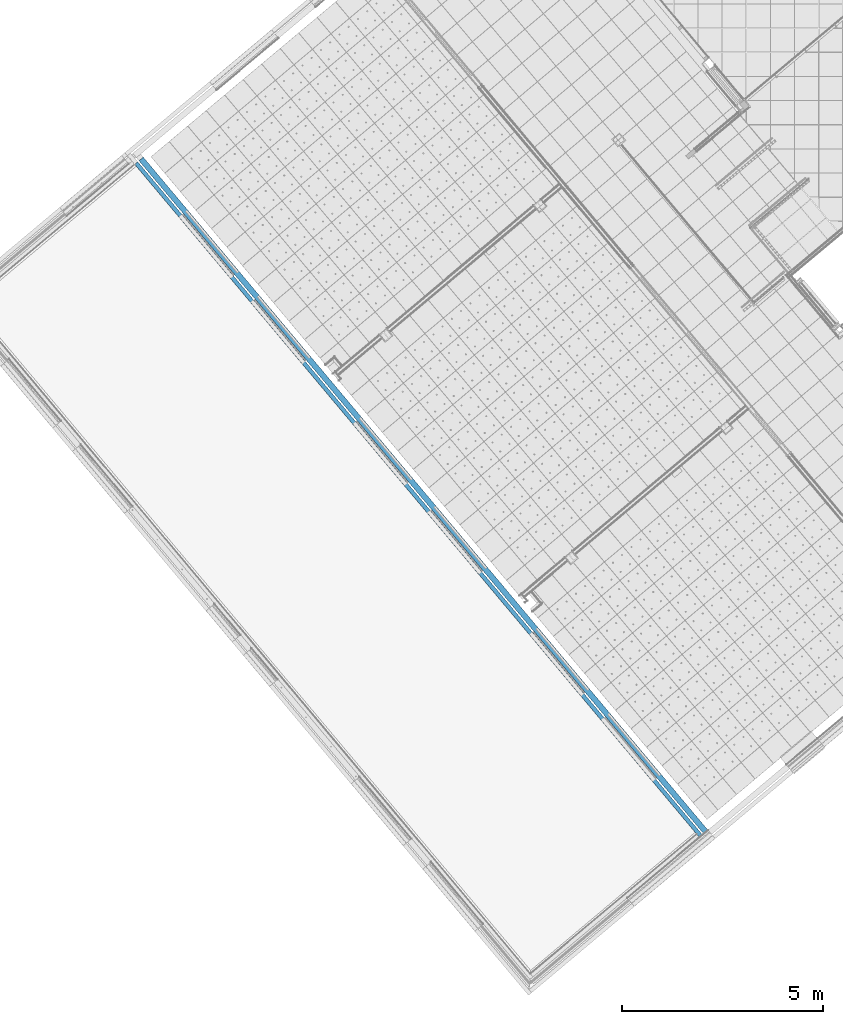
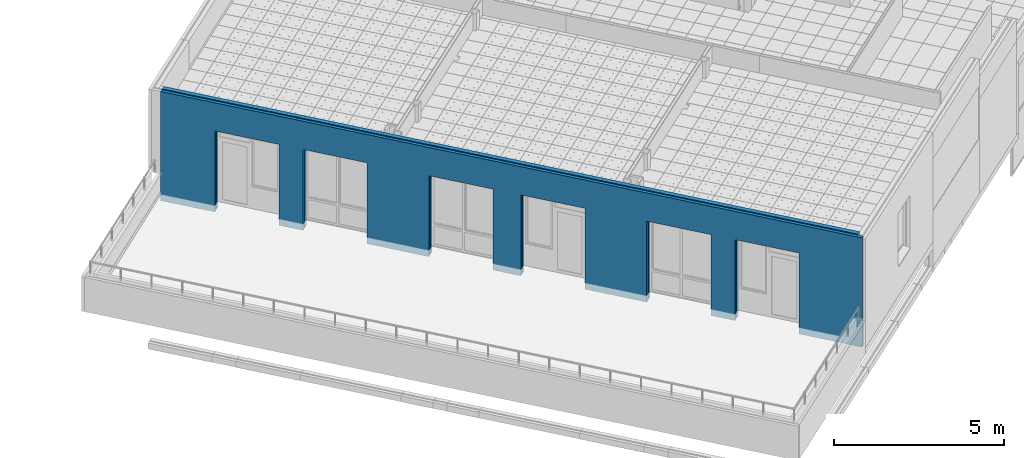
# One storey, part 39 of 321: 2 building element parts, 6 openings, 1 element without a shape of its own.
"""IFC2X3 building model written with IfcOpenShell, lengths in millimetres."""

from ifc_helpers import new_model, entity, si_unit, converted_unit, derived_unit, money_unit, direction, frame, origin_with_axes, place, context, subcontext, project, spatial, faceted_brep, material, type_object, element, aggregate, save


model = new_model("IFC2X3")

# Units and contexts
model_context = context("Model", 3, precision=0.01, world=origin_with_axes(), true_north=direction((0.0, 1.0)))
plan_context = context("Plan", 3, precision=0.01, world=origin_with_axes(), true_north=direction((0.0, 1.0)))
body_context = subcontext(model_context, "Body", "Model", "MODEL_VIEW")
ifc_project = project(units=[si_unit("LENGTHUNIT", "METRE", prefix="MILLI"), si_unit("AREAUNIT", "SQUARE_METRE"), si_unit("VOLUMEUNIT", "CUBIC_METRE"), converted_unit("PLANEANGLEUNIT", "DEGREE", entity("IfcPlaneAngleMeasure", 0.0174532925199), si_unit("PLANEANGLEUNIT", "RADIAN"), dimensions=[0, 0, 0, 0, 0, 0, 0]), money_unit("EUR"), converted_unit("TIMEUNIT", "Year", entity("IfcTimeMeasure", 31556926.0), si_unit("TIMEUNIT", "SECOND"), dimensions=[0, 0, 1, 0, 0, 0, 0]), si_unit("MASSUNIT", "GRAM", prefix="KILO"), si_unit("THERMODYNAMICTEMPERATUREUNIT", "DEGREE_CELSIUS"), si_unit("LUMINOUSINTENSITYUNIT", "LUMEN"), si_unit("ENERGYUNIT", "JOULE", prefix="MEGA"), derived_unit("THERMALCONDUCTANCEUNIT", [(si_unit("POWERUNIT", "WATT"), 1), (si_unit("LENGTHUNIT", "METRE"), -1), (si_unit("THERMODYNAMICTEMPERATUREUNIT", "KELVIN"), -1)]), derived_unit("SPECIFICHEATCAPACITYUNIT", [(si_unit("ENERGYUNIT", "JOULE"), 1), (si_unit("MASSUNIT", "GRAM", prefix="KILO"), -1), (si_unit("THERMODYNAMICTEMPERATUREUNIT", "KELVIN"), -1)]), derived_unit("MASSDENSITYUNIT", [(si_unit("MASSUNIT", "GRAM", prefix="KILO"), 1), (si_unit("VOLUMEUNIT", "CUBIC_METRE"), -1)])], contexts=[model_context, plan_context])

# Site, building, storey
site_placement = place(None, origin_with_axes())
site = spatial("IfcSite", under=ifc_project, at=site_placement, Name="Fortuinstraat Woensdrecht", CompositionType="ELEMENT")
building_placement = place(site_placement, origin_with_axes())
building = spatial("IfcBuilding", under=site, at=building_placement, Name="IKC Fortuna", CompositionType="ELEMENT")
storey_placement = place(building_placement, frame((0.0, 0.0, 4000.0), z_axis=(0.0, 0.0, 1.0), x_axis=(1.0, 0.0, 0.0)))
storey = spatial("IfcBuildingStorey", under=building, at=storey_placement, Name="01 eerste verdieping", CompositionType="ELEMENT", Elevation=4000.0)

# Wall, openings, building element parts
wall_type = type_object("IfcWallType", Name="21 MW hoofd 280", PredefinedType="NOTDEFINED")
wall_placement = place(storey_placement, frame((18518.9533731, -13085.7240957, 1360.0), z_axis=(0.0, 0.0, 1.0), x_axis=(-0.642787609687, 0.766044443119, 0.0)))
wall = element("IfcWall", 1, at=wall_placement, inside=storey, type_object=wall_type, Name="21_Wand_Vezel Cement Plaat")
opening_1_placement = place(wall_placement, frame((16352.999959, 0.0, 273.0), z_axis=(0.0, 0.0, 1.0), x_axis=(1.0, 0.0, 0.0)))
element("IfcOpeningElement", 2, at=opening_1_placement, cuts=wall, Name="31_Raam_A.14", context=body_context, shape_type="Brep", body=[
    faceted_brep([(-1005.0, 560.0, 2639.5), (-1005.0, 560.0, -273.0), (-1005.0, 72.0, -273.0), (-1005.0, 72.0, 2639.5), (1005.0, 560.0, 2639.5), (1005.0, 560.0, -273.0), (1005.0, 72.0, -273.0), (1005.0, 72.0, 2639.5)], [[[0, 1, 2, 3]], [[0, 4, 5, 1]], [[1, 5, 6, 2]], [[3, 2, 6, 7]], [[4, 0, 3, 7]], [[5, 4, 7, 6]]]),
    faceted_brep([(-1005.0, -280.0, -273.0), (-1005.0, -280.0, 2639.5), (-1005.0, 72.0, 2639.5), (-1005.0, 72.0, -273.0), (1005.0, -280.0, -273.0), (1005.0, -280.0, 2639.5), (1005.0, 72.0, 2639.5), (1005.0, 72.0, -273.0)], [[[0, 1, 2, 3]], [[0, 4, 5, 1]], [[1, 5, 6, 2]], [[3, 2, 6, 7]], [[4, 0, 3, 7]], [[5, 4, 7, 6]]]),
])
opening_2_placement = place(wall_placement, frame((12404.0000003, 0.0, 273.0), z_axis=(0.0, 0.0, 1.0), x_axis=(1.0, 0.0, 0.0)))
element("IfcOpeningElement", 3, at=opening_2_placement, cuts=wall, Name="31_Raam_A.14", context=body_context, shape_type="Brep", body=[
    faceted_brep([(-1005.0, 560.0, 2639.5), (-1005.0, 560.0, -273.0), (-1005.0, 72.0, -273.0), (-1005.0, 72.0, 2639.5), (1005.0, 560.0, 2639.5), (1005.0, 560.0, -273.0), (1005.0, 72.0, -273.0), (1005.0, 72.0, 2639.5)], [[[0, 1, 2, 3]], [[0, 4, 5, 1]], [[1, 5, 6, 2]], [[3, 2, 6, 7]], [[4, 0, 3, 7]], [[5, 4, 7, 6]]]),
    faceted_brep([(-1005.0, -280.0, -273.0), (-1005.0, -280.0, 2639.5), (-1005.0, 72.0, 2639.5), (-1005.0, 72.0, -273.0), (1005.0, -280.0, -273.0), (1005.0, -280.0, 2639.5), (1005.0, 72.0, 2639.5), (1005.0, 72.0, -273.0)], [[[0, 1, 2, 3]], [[0, 4, 5, 1]], [[1, 5, 6, 2]], [[3, 2, 6, 7]], [[4, 0, 3, 7]], [[5, 4, 7, 6]]]),
])
opening_3_placement = place(wall_placement, frame((5575.0000415, 0.0, 273.0), z_axis=(0.0, 0.0, 1.0), x_axis=(1.0, 0.0, 0.0)))
element("IfcOpeningElement", 4, at=opening_3_placement, cuts=wall, Name="31_Raam_A.14", context=body_context, shape_type="Brep", body=[
    faceted_brep([(-1005.0, 560.0, 2639.5), (-1005.0, 560.0, -273.0), (-1005.0, 72.0, -273.0), (-1005.0, 72.0, 2639.5), (1005.0, 560.0, 2639.5), (1005.0, 560.0, -273.0), (1005.0, 72.0, -273.0), (1005.0, 72.0, 2639.5)], [[[0, 1, 2, 3]], [[0, 4, 5, 1]], [[1, 5, 6, 2]], [[3, 2, 6, 7]], [[4, 0, 3, 7]], [[5, 4, 7, 6]]]),
    faceted_brep([(-1005.0, -280.0, -273.0), (-1005.0, -280.0, 2639.5), (-1005.0, 72.0, 2639.5), (-1005.0, 72.0, -273.0), (1005.0, -280.0, -273.0), (1005.0, -280.0, 2639.5), (1005.0, 72.0, 2639.5), (1005.0, 72.0, -273.0)], [[[0, 1, 2, 3]], [[0, 4, 5, 1]], [[1, 5, 6, 2]], [[3, 2, 6, 7]], [[4, 0, 3, 7]], [[5, 4, 7, 6]]]),
])
opening_4_placement = place(wall_placement, frame((19122.9999796, 0.0, 218.475865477), z_axis=(0.0, 0.0, 1.0), x_axis=(1.0, 0.0, 0.0)))
element("IfcOpeningElement", 5, at=opening_4_placement, cuts=wall, Name="31_Deur_A.13", context=body_context, shape_type="Brep", body=[
    faceted_brep([(1005.0, 72.0, 2694.02413452), (1005.0, 72.0, -218.5), (1005.0, 560.0, -218.5), (1005.0, 560.0, 2694.02413452), (-1005.0, 72.0, 2694.02413452), (-1005.0, 72.0, -218.5), (-1005.0, 560.0, -218.5), (-1005.0, 560.0, 2694.02413452)], [[[0, 1, 2, 3]], [[0, 4, 5, 1]], [[1, 5, 6, 2]], [[3, 2, 6, 7]], [[4, 0, 3, 7]], [[5, 4, 7, 6]]]),
    faceted_brep([(1005.0, 72.0, -218.5), (1005.0, 72.0, 2694.02413452), (1005.0, -280.0, 2694.02413452), (1005.0, -280.0, -218.5), (-1005.0, 72.0, -218.5), (-1005.0, 72.0, 2694.02413452), (-1005.0, -280.0, 2694.02413452), (-1005.0, -280.0, -218.5)], [[[0, 1, 2, 3]], [[0, 4, 5, 1]], [[1, 5, 6, 2]], [[3, 2, 6, 7]], [[4, 0, 3, 7]], [[5, 4, 7, 6]]]),
])
opening_5_placement = place(wall_placement, frame((9524.00000026, 0.0, 218.475865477), z_axis=(0.0, 0.0, 1.0), x_axis=(1.0, 0.0, 0.0)))
element("IfcOpeningElement", 6, at=opening_5_placement, cuts=wall, Name="31_Deur_A.13", context=body_context, shape_type="Brep", body=[
    faceted_brep([(-1005.0, 560.0, 2694.02413452), (-1005.0, 560.0, -218.5), (-1005.0, 72.0, -218.5), (-1005.0, 72.0, 2694.02413452), (1005.0, 560.0, 2694.02413452), (1005.0, 560.0, -218.5), (1005.0, 72.0, -218.5), (1005.0, 72.0, 2694.02413452)], [[[0, 1, 2, 3]], [[0, 4, 5, 1]], [[1, 5, 6, 2]], [[3, 2, 6, 7]], [[4, 0, 3, 7]], [[5, 4, 7, 6]]]),
    faceted_brep([(-1005.0, -280.0, -218.5), (-1005.0, -280.0, 2694.02413452), (-1005.0, 72.0, 2694.02413452), (-1005.0, 72.0, -218.5), (1005.0, -280.0, -218.5), (1005.0, -280.0, 2694.02413452), (1005.0, 72.0, 2694.02413452), (1005.0, 72.0, -218.5)], [[[0, 1, 2, 3]], [[0, 4, 5, 1]], [[1, 5, 6, 2]], [[3, 2, 6, 7]], [[4, 0, 3, 7]], [[5, 4, 7, 6]]]),
])
opening_6_placement = place(wall_placement, frame((2805.00002088, 0.0, 218.475865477), z_axis=(0.0, 0.0, 1.0), x_axis=(1.0, 0.0, 0.0)))
element("IfcOpeningElement", 7, at=opening_6_placement, cuts=wall, Name="31_Deur_A.13", context=body_context, shape_type="Brep", body=[
    faceted_brep([(-1005.0, 560.0, 2694.02413452), (-1005.0, 560.0, -218.5), (-1005.0, 72.0, -218.5), (-1005.0, 72.0, 2694.02413452), (1005.0, 560.0, 2694.02413452), (1005.0, 560.0, -218.5), (1005.0, 72.0, -218.5), (1005.0, 72.0, 2694.02413452)], [[[0, 1, 2, 3]], [[0, 4, 5, 1]], [[1, 5, 6, 2]], [[3, 2, 6, 7]], [[4, 0, 3, 7]], [[5, 4, 7, 6]]]),
    faceted_brep([(-1005.0, -280.0, -218.5), (-1005.0, -280.0, 2694.02413452), (-1005.0, 72.0, 2694.02413452), (-1005.0, 72.0, -218.5), (1005.0, -280.0, -218.5), (1005.0, -280.0, 2694.02413452), (1005.0, 72.0, 2694.02413452), (1005.0, 72.0, -218.5)], [[[0, 1, 2, 3]], [[0, 4, 5, 1]], [[1, 5, 6, 2]], [[3, 2, 6, 7]], [[4, 0, 3, 7]], [[5, 4, 7, 6]]]),
])
ifc_material_1 = material(Name="Steen - Baksteen Hoofd")
building_element_part_1_placement = place(wall_placement, origin_with_axes())
building_element_part_1 = element("IfcBuildingElementPart", 8, at=building_element_part_1_placement, material=ifc_material_1, Name="Steen - Baksteen Hoofd", context=body_context, shape_type="Brep", body=[
    faceted_brep([(1800.00002088, 180.0, 0.0), (1800.00002088, 180.0, 2880.0), (1662.00000029, 180.0, 2880.0), (1662.00000029, 180.000011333, 2902.0), (1800.00002088, 180.000011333, 2902.0), (1800.00002088, 180.0, 2912.5), (3810.00002088, 180.0, 2912.5), (3810.00002088, 180.000011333, 2902.0), (3948.00000029, 180.000011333, 2902.0), (3948.00000029, 180.0, 2880.0), (3810.00002088, 180.0, 2880.0), (3810.00002088, 180.0, 0.0), (4570.0000415, 180.0, 0.0), (4570.0000415, 180.0, 2880.0), (4336.00000029, 180.0, 2880.0), (4336.00000029, 180.0, 3028.91739686), (6718.00000029, 180.0, 3028.91739686), (6718.00000029, 180.0, 2880.0), (6580.0000415, 180.0, 2880.0), (6580.0000415, 180.0, 0.0), (8519.00000026, 180.0, 0.0), (8519.00000026, 180.0, 2880.0), (8381.00000029, 180.0, 2880.0), (8381.00000029, 180.0, 3028.91739686), (10667.0000003, 180.0, 3028.91739686), (10667.0000003, 180.0, 2880.0), (10529.0000003, 180.0, 2880.0), (10529.0000003, 180.0, 0.0), (11399.0000003, 180.0, 0.0), (11399.0000003, 180.0, 2880.0), (11261.0000003, 180.0, 2880.0), (11261.0000003, 180.0, 3028.91739686), (13547.0000003, 180.0, 3028.91739686), (13547.0000003, 180.0, 2880.0), (13409.0000003, 180.0, 2880.0), (13409.0000003, 180.0, 0.0), (15347.999959, 180.0, 0.0), (15347.999959, 180.0, 2880.0), (15210.0000003, 180.0, 2880.0), (15210.0000003, 180.0, 3028.91739686), (17496.0000003, 180.0, 3028.91739686), (17496.0000003, 180.0, 2880.0), (17357.999959, 180.0, 2880.0), (17357.999959, 180.0, 0.0), (18117.9999796, 180.0, 0.0), (18117.9999796, 180.0, 2880.0), (17978.0000003, 180.0, 2880.0), (17978.0000003, 180.0, 3028.91739686), (20264.0000003, 180.0, 3028.91739686), (20264.0000003, 180.0, 2880.0), (20127.9999796, 180.0, 2880.0), (20127.9999796, 180.0, 0.0), (21827.9999955, 180.0, 0.0), (21827.9999955, 180.0, 3930.0), (-180.0, 180.0, 3930.0), (-180.0, 180.0, 0.0), (1800.00002088, 183.514729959, 2893.51471863), (1800.00002088, 192.000011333, 2890.0), (1800.00002088, 264.000011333, 2890.0), (1800.00002088, 268.24265202, 2888.24264069), (1800.00002088, 270.000011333, 2884.0), (1800.00002088, 270.000011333, 2880.0), (1800.00002088, 280.000004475, 0.0), (1800.00002088, 280.0, 2912.5), (1662.00000029, 270.000011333, 2880.0), (1662.00000029, 192.000011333, 2890.0), (1662.00000029, 183.514729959, 2893.51471863), (1662.00000029, 270.000011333, 2884.0), (1662.00000029, 268.24265202, 2888.24264069), (1662.00000029, 264.000011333, 2890.0), (3810.00002088, 280.0, 2912.5), (3810.00002088, 280.000004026, 0.0), (3810.00002088, 270.000011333, 2880.0), (3810.00002088, 270.000011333, 2884.0), (3810.00002088, 268.24265202, 2888.24264069), (3810.00002088, 264.000011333, 2890.0), (3810.00002088, 192.000011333, 2890.0), (3810.00002088, 183.514729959, 2893.51471863), (3948.00000029, 183.514729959, 2893.51471863), (3948.00000029, 270.000011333, 2884.0), (3948.00000029, 270.000011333, 2880.0), (3948.00000029, 192.000011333, 2890.0), (3948.00000029, 264.000011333, 2890.0), (3948.00000029, 268.24265202, 2888.24264069), (4570.0000415, 280.000003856, 0.0), (4570.0000415, 280.0, 2912.5), (4570.0000415, 183.38636481, 2912.5), (4570.0000415, 183.38636481, 2902.0), (4570.0000415, 186.901083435, 2893.51471863), (4570.0000415, 195.38636481, 2890.0), (4570.0000415, 267.38636481, 2890.0), (4570.0000415, 271.629005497, 2888.24264069), (4570.0000415, 273.38636481, 2884.0), (4570.0000415, 273.38636481, 2880.0), (4336.00000029, 273.38636481, 2880.0), (4336.00000029, 271.629005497, 2888.24264069), (4336.00000029, 267.38636481, 2890.0), (4336.00000029, 195.38636481, 2890.0), (4336.00000029, 186.901083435, 2893.51471863), (4336.00000029, 183.38636481, 2902.0), (4336.00000029, 183.38636481, 3024.0), (4336.00000029, 181.629005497, 3028.24264069), (4336.00000029, 273.38636481, 2884.0), (6718.00000029, 181.629005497, 3028.24264069), (6718.00000029, 183.38636481, 2902.0), (6718.00000029, 186.901083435, 2893.51471863), (6718.00000029, 195.38636481, 2890.0), (6718.00000029, 267.38636481, 2890.0), (6718.00000029, 271.629005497, 2888.24264069), (6718.00000029, 273.38636481, 2884.0), (6718.00000029, 273.38636481, 2880.0), (6718.00000029, 183.38636481, 3024.0), (6580.0000415, 273.38636481, 2880.0), (6580.0000415, 273.38636481, 2884.0), (6580.0000415, 271.629005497, 2888.24264069), (6580.0000415, 267.38636481, 2890.0), (6580.0000415, 195.38636481, 2890.0), (6580.0000415, 186.901083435, 2893.51471863), (6580.0000415, 183.38636481, 2902.0), (6580.0000415, 183.38636481, 2912.5), (6580.0000415, 280.0, 2912.5), (6580.0000415, 280.000003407, 0.0), (8519.00000026, 280.000002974, 0.0), (8519.00000026, 267.386364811, 2890.0), (8519.00000026, 271.629005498, 2888.24264069), (8519.00000026, 273.386364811, 2884.0), (8519.00000026, 273.386364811, 2880.0), (8519.00000026, 280.0, 2912.5), (8519.00000026, 183.386364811, 2912.5), (8519.00000026, 183.386364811, 2902.0), (8519.00000026, 186.901083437, 2893.51471863), (8519.00000026, 195.386364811, 2890.0), (8381.00000029, 273.386364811, 2880.0), (8381.00000029, 271.629005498, 2888.24264069), (8381.00000029, 267.386364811, 2890.0), (8381.00000029, 195.386364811, 2890.0), (8381.00000029, 186.901083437, 2893.51471863), (8381.00000029, 183.386364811, 2902.0), (8381.00000029, 183.386364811, 3024.0), (8381.00000029, 181.629005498, 3028.24264069), (8381.00000029, 273.386364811, 2884.0), (10667.0000003, 181.629005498, 3028.24264069), (10667.0000003, 183.386364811, 2902.0), (10667.0000003, 186.901083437, 2893.51471863), (10667.0000003, 195.386364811, 2890.0), (10667.0000003, 267.386364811, 2890.0), (10667.0000003, 271.629005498, 2888.24264069), (10667.0000003, 273.386364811, 2884.0), (10667.0000003, 273.386364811, 2880.0), (10667.0000003, 183.386364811, 3024.0), (10529.0000003, 273.386364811, 2880.0), (10529.0000003, 183.386364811, 2912.5), (10529.0000003, 280.0, 2912.5), (10529.0000003, 280.000002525, 0.0), (10529.0000003, 273.386364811, 2884.0), (10529.0000003, 271.629005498, 2888.24264069), (10529.0000003, 267.386364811, 2890.0), (10529.0000003, 195.386364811, 2890.0), (10529.0000003, 186.901083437, 2893.51471863), (10529.0000003, 183.386364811, 2902.0), (11399.0000003, 280.00000233, 0.0), (11399.0000003, 273.386364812, 2880.0), (11399.0000003, 280.0, 2912.5), (11399.0000003, 183.386364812, 2912.5), (11399.0000003, 183.386364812, 2902.0), (11399.0000003, 186.901083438, 2893.51471863), (11399.0000003, 195.386364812, 2890.0), (11399.0000003, 267.386364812, 2890.0), (11399.0000003, 271.629005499, 2888.24264069), (11399.0000003, 273.386364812, 2884.0), (11261.0000003, 273.386364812, 2880.0), (11261.0000003, 271.629005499, 2888.24264069), (11261.0000003, 267.386364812, 2890.0), (11261.0000003, 195.386364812, 2890.0), (11261.0000003, 186.901083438, 2893.51471863), (11261.0000003, 183.386364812, 2902.0), (11261.0000003, 183.386364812, 3024.0), (11261.0000003, 181.629005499, 3028.24264069), (11261.0000003, 273.386364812, 2884.0), (13547.0000003, 181.629005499, 3028.24264069), (13547.0000003, 183.386364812, 2902.0), (13547.0000003, 186.901083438, 2893.51471863), (13547.0000003, 195.386364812, 2890.0), (13547.0000003, 267.386364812, 2890.0), (13547.0000003, 271.629005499, 2888.24264069), (13547.0000003, 273.386364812, 2884.0), (13547.0000003, 273.386364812, 2880.0), (13547.0000003, 183.386364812, 3024.0), (13409.0000003, 273.386364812, 2880.0), (13409.0000003, 273.386364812, 2884.0), (13409.0000003, 271.629005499, 2888.24264069), (13409.0000003, 267.386364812, 2890.0), (13409.0000003, 195.386364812, 2890.0), (13409.0000003, 186.901083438, 2893.51471863), (13409.0000003, 183.386364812, 2902.0), (13409.0000003, 183.386364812, 2912.5), (13409.0000003, 280.0, 2912.5), (13409.0000003, 280.000001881, 0.0), (15347.999959, 280.000001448, 0.0), (15347.999959, 267.386364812, 2890.0), (15347.999959, 271.629005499, 2888.24264069), (15347.999959, 273.386364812, 2884.0), (15347.999959, 273.386364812, 2880.0), (15347.999959, 280.0, 2912.5), (15347.999959, 183.386364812, 2912.5), (15347.999959, 183.386364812, 2902.0), (15347.999959, 186.901083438, 2893.51471863), (15347.999959, 195.386364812, 2890.0), (15210.0000003, 273.386364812, 2880.0), (15210.0000003, 271.629005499, 2888.24264069), (15210.0000003, 267.386364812, 2890.0), (15210.0000003, 195.386364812, 2890.0), (15210.0000003, 186.901083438, 2893.51471863), (15210.0000003, 183.386364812, 2902.0), (15210.0000003, 183.386364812, 3024.0), (15210.0000003, 181.629005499, 3028.24264069), (15210.0000003, 273.386364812, 2884.0), (17496.0000003, 181.629005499, 3028.24264069), (17496.0000003, 183.386364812, 2902.0), (17496.0000003, 186.901083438, 2893.51471863), (17496.0000003, 195.386364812, 2890.0), (17496.0000003, 267.386364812, 2890.0), (17496.0000003, 271.629005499, 2888.24264069), (17496.0000003, 273.386364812, 2884.0), (17496.0000003, 273.386364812, 2880.0), (17496.0000003, 183.386364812, 3024.0), (17357.999959, 273.386364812, 2880.0), (17357.999959, 183.386364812, 2912.5), (17357.999959, 280.0, 2912.5), (17357.999959, 280.000000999, 0.0), (17357.999959, 273.386364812, 2884.0), (17357.999959, 271.629005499, 2888.24264069), (17357.999959, 267.386364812, 2890.0), (17357.999959, 195.386364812, 2890.0), (17357.999959, 186.901083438, 2893.51471863), (17357.999959, 183.386364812, 2902.0), (18117.9999796, 280.000000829, 0.0), (18117.9999796, 183.386364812, 2902.0), (18117.9999796, 186.901083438, 2893.51471863), (18117.9999796, 195.386364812, 2890.0), (18117.9999796, 267.386364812, 2890.0), (18117.9999796, 271.629005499, 2888.24264069), (18117.9999796, 273.386364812, 2884.0), (18117.9999796, 273.386364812, 2880.0), (18117.9999796, 280.0, 2912.5), (18117.9999796, 183.386364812, 2912.5), (17978.0000003, 273.386364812, 2880.0), (17978.0000003, 271.629005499, 2888.24264069), (17978.0000003, 267.386364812, 2890.0), (17978.0000003, 195.386364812, 2890.0), (17978.0000003, 186.901083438, 2893.51471863), (17978.0000003, 183.386364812, 2902.0), (17978.0000003, 183.386364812, 3024.0), (17978.0000003, 181.629005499, 3028.24264069), (17978.0000003, 273.386364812, 2884.0), (20264.0000003, 181.629005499, 3028.24264069), (20264.0000003, 183.386364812, 2902.0), (20264.0000003, 186.901083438, 2893.51471863), (20264.0000003, 195.386364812, 2890.0), (20264.0000003, 267.386364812, 2890.0), (20264.0000003, 271.629005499, 2888.24264069), (20264.0000003, 273.386364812, 2884.0), (20264.0000003, 273.386364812, 2880.0), (20264.0000003, 183.386364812, 3024.0), (20127.9999796, 273.386364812, 2880.0), (20127.9999796, 195.386364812, 2890.0), (20127.9999796, 186.901083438, 2893.51471863), (20127.9999796, 183.386364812, 2902.0), (20127.9999796, 183.386364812, 2912.5), (20127.9999796, 280.0, 2912.5), (20127.9999796, 280.00000038, 0.0), (20127.9999796, 273.386364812, 2884.0), (20127.9999796, 271.629005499, 2888.24264069), (20127.9999796, 267.386364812, 2890.0), (21827.9999955, 280.0, 0.0), (21827.9999955, 280.0, 3930.0), (-180.0, 279.999987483, 3930.0), (-180.0, 280.000004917, 0.0), (-180.0, 280.000000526, 990.0)], [[[0, 1, 2, 3, 4, 5, 6, 7, 8, 9, 10, 11, 12, 13, 14, 15, 16, 17, 18, 19, 20, 21, 22, 23, 24, 25, 26, 27, 28, 29, 30, 31, 32, 33, 34, 35, 36, 37, 38, 39, 40, 41, 42, 43, 44, 45, 46, 47, 48, 49, 50, 51, 52, 53, 54, 55]], [[5, 4, 56, 57, 58, 59, 60, 61, 1, 0, 62, 63]], [[1, 61, 64, 2]], [[65, 66, 3, 2, 64, 67, 68, 69]], [[56, 4, 3, 66]], [[6, 5, 63, 70]], [[7, 6, 70, 71, 11, 10, 72, 73, 74, 75, 76, 77]], [[7, 77, 78, 8]], [[79, 80, 9, 8, 78, 81, 82, 83]], [[72, 10, 9, 80]], [[11, 71, 84, 12]], [[84, 85, 86, 87, 88, 89, 90, 91, 92, 93, 13, 12]], [[14, 13, 93, 94]], [[95, 96, 97, 98, 99, 100, 101, 15, 14, 94, 102]], [[101, 103, 16, 15]], [[104, 105, 106, 107, 108, 109, 110, 17, 16, 103, 111]], [[110, 112, 18, 17]], [[113, 114, 115, 116, 117, 118, 119, 120, 121, 19, 18, 112]], [[20, 19, 121, 122]], [[123, 124, 125, 126, 21, 20, 122, 127, 128, 129, 130, 131]], [[126, 132, 22, 21]], [[133, 134, 135, 136, 137, 138, 139, 23, 22, 132, 140]], [[139, 141, 24, 23]], [[142, 143, 144, 145, 146, 147, 148, 25, 24, 141, 149]], [[26, 25, 148, 150]], [[151, 152, 153, 27, 26, 150, 154, 155, 156, 157, 158, 159]], [[153, 160, 28, 27]], [[161, 29, 28, 160, 162, 163, 164, 165, 166, 167, 168, 169]], [[29, 161, 170, 30]], [[171, 172, 173, 174, 175, 176, 177, 31, 30, 170, 178]], [[177, 179, 32, 31]], [[180, 181, 182, 183, 184, 185, 186, 33, 32, 179, 187]], [[188, 34, 33, 186]], [[35, 34, 188, 189, 190, 191, 192, 193, 194, 195, 196, 197]], [[35, 197, 198, 36]], [[199, 200, 201, 202, 37, 36, 198, 203, 204, 205, 206, 207]], [[202, 208, 38, 37]], [[209, 210, 211, 212, 213, 214, 215, 39, 38, 208, 216]], [[215, 217, 40, 39]], [[218, 219, 220, 221, 222, 223, 224, 41, 40, 217, 225]], [[42, 41, 224, 226]], [[227, 228, 229, 43, 42, 226, 230, 231, 232, 233, 234, 235]], [[43, 229, 236, 44]], [[237, 238, 239, 240, 241, 242, 243, 45, 44, 236, 244, 245]], [[246, 46, 45, 243]], [[247, 248, 249, 250, 251, 252, 253, 47, 46, 246, 254]], [[253, 255, 48, 47]], [[256, 257, 258, 259, 260, 261, 262, 49, 48, 255, 263]], [[49, 262, 264, 50]], [[265, 266, 267, 268, 269, 270, 51, 50, 264, 271, 272, 273]], [[274, 52, 51, 270]], [[275, 53, 52, 274]], [[54, 53, 275, 276]], [[277, 55, 54, 276, 278]], [[62, 0, 55, 277]], [[57, 56, 66, 65]], [[58, 57, 65, 69]], [[59, 58, 69, 68]], [[60, 59, 68, 67]], [[61, 60, 67, 64]], [[63, 62, 277, 278, 276, 275, 274, 270, 269, 244, 236, 229, 228, 203, 198, 197, 196, 162, 160, 153, 152, 127, 122, 121, 120, 85, 84, 71, 70]], [[73, 72, 80, 79]], [[74, 73, 79, 83]], [[75, 74, 83, 82]], [[76, 75, 82, 81]], [[77, 76, 81, 78]], [[120, 119, 86, 85]], [[86, 119, 118, 104, 111, 100, 99, 87]], [[98, 88, 87, 99]], [[97, 89, 88, 98]], [[96, 90, 89, 97]], [[95, 91, 90, 96]], [[102, 92, 91, 95]], [[94, 93, 92, 102]], [[103, 101, 100, 111]], [[104, 118, 117, 105]], [[105, 117, 116, 106]], [[106, 116, 115, 107]], [[107, 115, 114, 108]], [[108, 114, 113, 109]], [[109, 113, 112, 110]], [[123, 134, 133, 124]], [[124, 133, 140, 125]], [[125, 140, 132, 126]], [[128, 127, 152, 151]], [[137, 129, 128, 151, 159, 142, 149, 138]], [[129, 137, 136, 130]], [[130, 136, 135, 131]], [[131, 135, 134, 123]], [[141, 139, 138, 149]], [[158, 143, 142, 159]], [[157, 144, 143, 158]], [[156, 145, 144, 157]], [[155, 146, 145, 156]], [[154, 147, 146, 155]], [[150, 148, 147, 154]], [[195, 163, 162, 196]], [[176, 175, 164, 163, 195, 194, 180, 187]], [[165, 164, 175, 174]], [[166, 165, 174, 173]], [[167, 166, 173, 172]], [[168, 167, 172, 171]], [[169, 168, 171, 178]], [[161, 169, 178, 170]], [[179, 177, 176, 187]], [[194, 193, 181, 180]], [[193, 192, 182, 181]], [[192, 191, 183, 182]], [[191, 190, 184, 183]], [[190, 189, 185, 184]], [[189, 188, 186, 185]], [[199, 210, 209, 200]], [[200, 209, 216, 201]], [[201, 216, 208, 202]], [[204, 203, 228, 227]], [[235, 218, 225, 214, 213, 205, 204, 227]], [[205, 213, 212, 206]], [[206, 212, 211, 207]], [[207, 211, 210, 199]], [[217, 215, 214, 225]], [[234, 219, 218, 235]], [[233, 220, 219, 234]], [[232, 221, 220, 233]], [[231, 222, 221, 232]], [[230, 223, 222, 231]], [[226, 224, 223, 230]], [[251, 250, 238, 237]], [[250, 249, 239, 238]], [[249, 248, 240, 239]], [[248, 247, 241, 240]], [[247, 254, 242, 241]], [[254, 246, 243, 242]], [[244, 269, 268, 245]], [[256, 263, 252, 251, 237, 245, 268, 267]], [[255, 253, 252, 263]], [[257, 256, 267, 266]], [[258, 257, 266, 265]], [[259, 258, 265, 273]], [[260, 259, 273, 272]], [[261, 260, 272, 271]], [[262, 261, 271, 264]]]),
])
ifc_material_2 = material(Name="ALG - ISOLATIE")
building_element_part_2_placement = place(wall_placement, origin_with_axes())
building_element_part_2 = element("IfcBuildingElementPart", 9, at=building_element_part_2_placement, material=ifc_material_2, Name="ALG - ISOLATIE", context=body_context, shape_type="Brep", body=[
    faceted_brep([(3810.00002088, 0.0, 2912.5), (3810.00002088, 0.0, 0.0), (4570.0000415, 0.0, 0.0), (4570.0000415, 0.0, 2912.5), (6580.0000415, 0.0, 2912.5), (6580.0000415, 0.0, 0.0), (8519.00000026, 0.0, 0.0), (8519.00000026, 0.0, 2912.5), (10529.0000003, 0.0, 2912.5), (10529.0000003, 0.0, 0.0), (11399.0000003, 0.0, 0.0), (11399.0000003, 0.0, 2912.5), (13409.0000003, 0.0, 2912.5), (13409.0000003, 0.0, 0.0), (15347.999959, 0.0, 0.0), (15347.999959, 0.0, 2912.5), (17357.999959, 0.0, 2912.5), (17357.999959, 0.0, 0.0), (18117.9999796, 0.0, 0.0), (18117.9999796, 0.0, 2912.5), (20127.9999796, 0.0, 2912.5), (20127.9999796, 0.0, 0.0), (21827.9999955, 0.0, 0.0), (21827.9999955, 0.0, 3930.0), (0.0, 0.0, 3930.0), (0.0, 0.0, 0.0), (1800.00002088, 0.0, 0.0), (1800.00002088, 0.0, 2912.5), (3810.00002088, 72.0, 2912.5), (3810.00002088, 72.0, 0.0), (3810.00002088, 140.0, 0.0), (4570.0000415, 140.0, 0.0), (4570.0000415, 72.0, 0.0), (4570.0000415, 72.0, 2912.5), (6580.0000415, 72.0, 2912.5), (6580.0000415, 72.0, 0.0), (8519.00000026, 72.0, 0.0), (6580.0000415, 140.0, 0.0), (8519.00000026, 140.0, 0.0), (8519.00000026, 72.0, 2912.5), (10529.0000003, 72.0, 2912.5), (10529.0000003, 72.0, 0.0), (10529.0000003, 140.0, 0.0), (11399.0000003, 140.0, 0.0), (11399.0000003, 72.0, 0.0), (11399.0000003, 72.0, 2912.5), (13409.0000003, 72.0, 2912.5), (13409.0000003, 72.0, 0.0), (13409.0000003, 140.0, 0.0), (15347.999959, 140.0, 0.0), (15347.999959, 72.0, 0.0), (15347.999959, 72.0, 2912.5), (17357.999959, 72.0, 2912.5), (17357.999959, 72.0, 0.0), (18117.9999796, 72.0, 0.0), (17357.999959, 140.0, 0.0), (18117.9999796, 140.0, 0.0), (18117.9999796, 72.0, 2912.5), (20127.9999796, 72.0, 2912.5), (20127.9999796, 72.0, 0.0), (21827.9999955, 140.0, 0.0), (20127.9999796, 140.0, 0.0), (21827.9999955, 140.0, 3930.0), (0.0, 140.0, 3930.0), (0.0, 140.0, 990.0), (0.0, 140.0, 0.0), (1800.00002088, 72.0, 0.0), (1800.00002088, 140.0, 0.0), (1800.00002088, 72.0, 2912.5), (3810.00002088, 140.0, 2912.5), (1800.00002088, 140.0, 2912.5), (20127.9999796, 140.0, 2912.5), (18117.9999796, 140.0, 2912.5), (17357.999959, 140.0, 2912.5), (15347.999959, 140.0, 2912.5), (13409.0000003, 140.0, 2912.5), (11399.0000003, 140.0, 2912.5), (10529.0000003, 140.0, 2912.5), (8519.00000026, 140.0, 2912.5), (6580.0000415, 140.0, 2912.5), (4570.0000415, 140.0, 2912.5)], [[[0, 1, 2, 3, 4, 5, 6, 7, 8, 9, 10, 11, 12, 13, 14, 15, 16, 17, 18, 19, 20, 21, 22, 23, 24, 25, 26, 27]], [[1, 0, 28, 29]], [[1, 29, 30, 31, 32, 2]], [[32, 33, 3, 2]], [[33, 34, 4, 3]], [[34, 35, 5, 4]], [[36, 6, 5, 35, 37, 38]], [[36, 39, 7, 6]], [[39, 40, 8, 7]], [[40, 41, 9, 8]], [[9, 41, 42, 43, 44, 10]], [[11, 10, 44, 45]], [[12, 11, 45, 46]], [[13, 12, 46, 47]], [[13, 47, 48, 49, 50, 14]], [[50, 51, 15, 14]], [[51, 52, 16, 15]], [[52, 53, 17, 16]], [[54, 18, 17, 53, 55, 56]], [[19, 18, 54, 57]], [[20, 19, 57, 58]], [[21, 20, 58, 59]], [[60, 22, 21, 59, 61]], [[22, 60, 62, 23]], [[62, 63, 24, 23]], [[24, 63, 64, 65, 25]], [[66, 26, 25, 65, 67]], [[27, 26, 66, 68]], [[0, 27, 68, 28]], [[29, 28, 69, 30]], [[31, 30, 69, 70, 67, 65, 64, 63, 62, 60, 61, 71, 72, 56, 55, 73, 74, 49, 48, 75, 76, 43, 42, 77, 78, 38, 37, 79, 80]], [[31, 80, 33, 32]], [[80, 79, 34, 33]], [[79, 37, 35, 34]], [[38, 78, 39, 36]], [[78, 77, 40, 39]], [[77, 42, 41, 40]], [[45, 44, 43, 76]], [[46, 45, 76, 75]], [[47, 46, 75, 48]], [[49, 74, 51, 50]], [[74, 73, 52, 51]], [[73, 55, 53, 52]], [[57, 54, 56, 72]], [[58, 57, 72, 71]], [[59, 58, 71, 61]], [[68, 66, 67, 70]], [[28, 68, 70, 69]]]),
])
aggregate(wall, [building_element_part_1, building_element_part_2])

save(model, "model.ifc")
